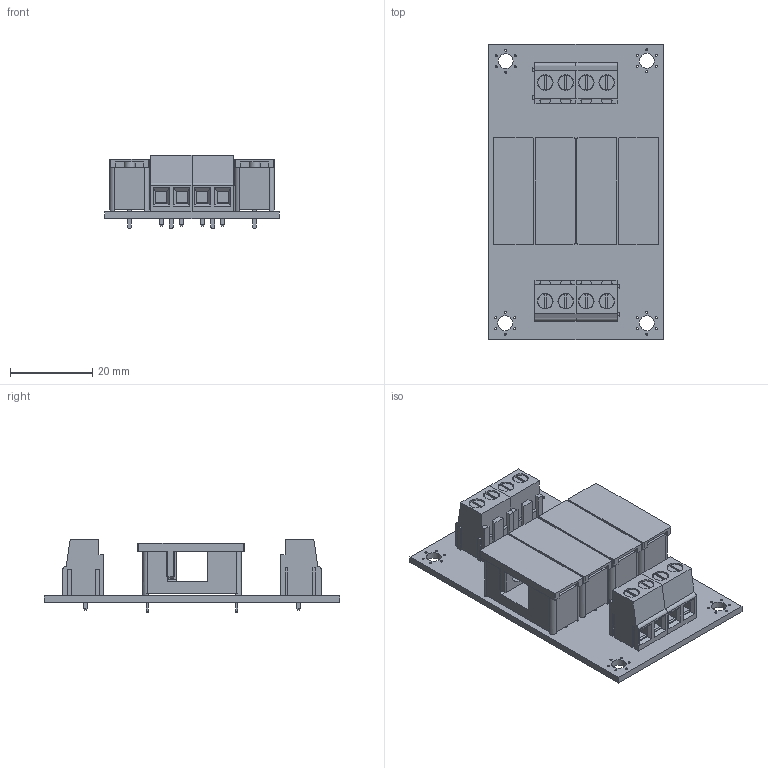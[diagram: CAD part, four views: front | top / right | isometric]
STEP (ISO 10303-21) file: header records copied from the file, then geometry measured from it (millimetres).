
FILE_DESCRIPTION(('Open CASCADE Model'),'2;1');
FILE_NAME('Open CASCADE Shape Model','2025-02-11T10:03:58',('Author'),( 'Open CASCADE'),'Open CASCADE STEP processor 6.8','Open CASCADE 6.8' ,'Unknown');
FILE_SCHEMA(('AUTOMOTIVE_DESIGN { 1 0 10303 214 1 1 1 1 }'));
Length unit declared in the file: millimetre
Products named in the file (13): PCB; Board; F4; 4527_4527C; F3; F2; F1; J2; EK500V2X2P_ASM3; EK500V-02P; EK500V-02P001; J1
Assembly tree (19 placements, depth 4):
  PCB
    Board
    F4
      4527_4527C
      4527_4527C
    F3
      4527_4527C
      4527_4527C
    F2
      4527_4527C
      4527_4527C
    F1
      4527_4527C
      4527_4527C
    J2
      EK500V2X2P_ASM3
        EK500V-02P
        EK500V-02P001
    J1
      EK500V2X2P_ASM3
        EK500V-02P
        EK500V-02P001
Bounding box: 42.5 x 72 x 17.97 mm (x, y, z)
Volume: 14790.3 mm3; surface area: 21900.3 mm2
Topology: 41 solids, 41 shells, 1430 faces, 3744 edges, 2456 vertices
Faces by surface type: plane 1150, cylinder 280
Full cylindrical faces by diameter (mm): 0.5 x24, 1.5 x8, 3.6 x4
Entity records: 18160 total; most frequent: CARTESIAN_POINT 2885, ORIENTED_EDGE 2704, DIRECTION 2656, EDGE_CURVE 1352, LINE 1086, VECTOR 1086, VERTEX_POINT 886, AXIS2_PLACEMENT_3D 785
